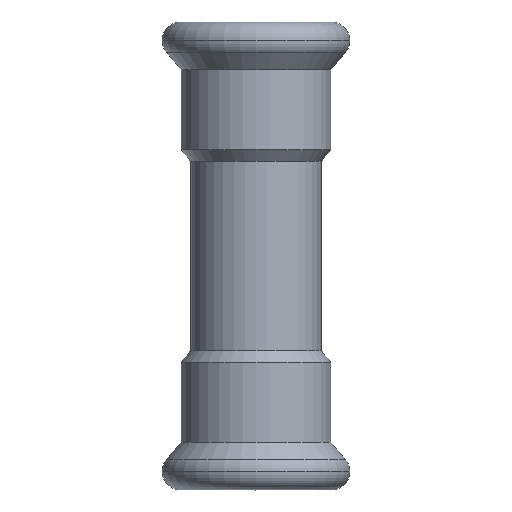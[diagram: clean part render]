
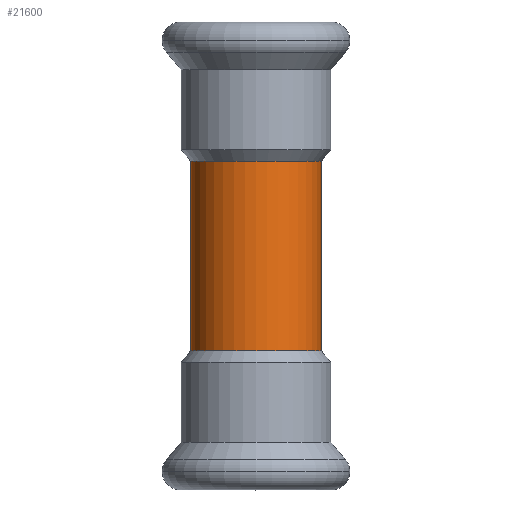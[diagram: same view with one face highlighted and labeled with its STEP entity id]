
A CAD part, top view. The second image highlights one B-rep face of the part: STEP entity #21600.
In plain terms, the highlighted cylindrical face has radius 11 mm (diameter 22 mm), a partial arc.
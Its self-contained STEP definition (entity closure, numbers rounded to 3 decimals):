
#4190=CARTESIAN_POINT('',(-98.071,11.74,
16.));
#4200=DIRECTION('',(0.,0.,1.));
#4210=DIRECTION('',(-1.,0.,0.));
#4220=AXIS2_PLACEMENT_3D('',#4190,#4200,#4210);
#4230=CYLINDRICAL_SURFACE('',#4220,11.);
#12030=CARTESIAN_POINT('',(-87.071,11.74,
16.));
#12040=DIRECTION('',(0.,0.,1.));
#12050=VECTOR('',#12040,1.);
#12060=LINE('',#12030,#12050);
#12070=CARTESIAN_POINT('',(-87.071,11.74,
-16.));
#12080=VERTEX_POINT('',#12070);
#12090=CARTESIAN_POINT('',(-87.071,11.74,
16.));
#12100=VERTEX_POINT('',#12090);
#12110=EDGE_CURVE('',#12080,#12100,#12060,.T.);
#12130=CARTESIAN_POINT('',(-98.071,11.74,
16.));
#12140=DIRECTION('',(0.,0.,1.));
#12150=DIRECTION('',(1.,0.,0.));
#12160=AXIS2_PLACEMENT_3D('',#12130,#12140,#12150);
#12170=CIRCLE('',#12160,11.);
#12180=CARTESIAN_POINT('',(-109.071,11.74,
16.));
#12190=VERTEX_POINT('',#12180);
#12220=CARTESIAN_POINT('',(-109.071,11.74,
16.));
#12230=DIRECTION('',(0.,0.,1.));
#12240=VECTOR('',#12230,1.);
#12250=LINE('',#12220,#12240);
#12260=CARTESIAN_POINT('',(-109.071,11.74,
-16.));
#12270=VERTEX_POINT('',#12260);
#12280=EDGE_CURVE('',#12270,#12190,#12250,.T.);
#12300=CARTESIAN_POINT('',(-98.071,11.74,
-16.));
#12310=DIRECTION('',(0.,0.,1.));
#12320=DIRECTION('',(-1.,0.,0.));
#12330=AXIS2_PLACEMENT_3D('',#12300,#12310,#12320);
#12340=CIRCLE('',#12330,11.);
#20190=EDGE_CURVE('',#12190,#12100,#12170,.T.);
#20770=EDGE_CURVE('',#12270,#12080,#12340,.T.);
#21540=ORIENTED_EDGE('',*,*,#20770,.T.);
#21550=ORIENTED_EDGE('',*,*,#12280,.F.);
#21560=ORIENTED_EDGE('',*,*,#20190,.F.);
#21570=ORIENTED_EDGE('',*,*,#12110,.T.);
#21580=EDGE_LOOP('',(#21570,#21560,#21550,#21540));
#21590=FACE_OUTER_BOUND('',#21580,.T.);
#21600=ADVANCED_FACE('',(#21590),#4230,.T.);
